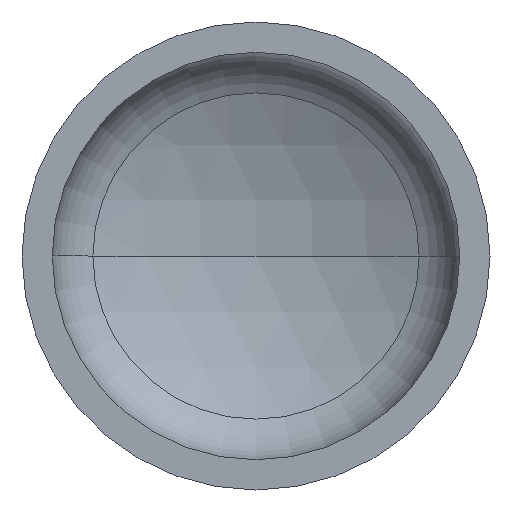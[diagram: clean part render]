
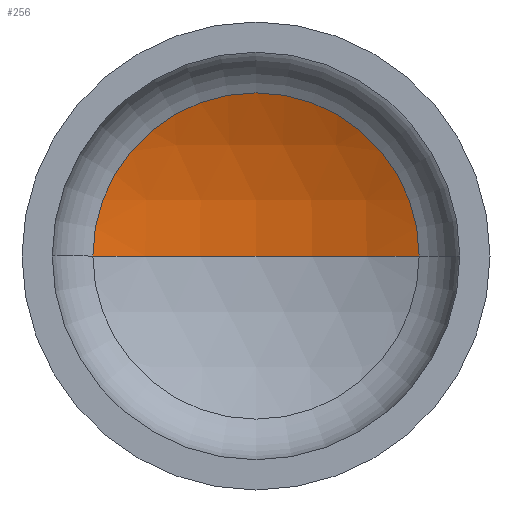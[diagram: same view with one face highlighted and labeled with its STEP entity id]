
A CAD part, front view. The second image highlights one B-rep face of the part: STEP entity #256.
In plain terms, the highlighted spherical face has radius 1040 mm.
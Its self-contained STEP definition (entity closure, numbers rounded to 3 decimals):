
#4 = AXIS2_PLACEMENT_3D ( 'NONE', #122, #299, #302 ) ;
#11 = EDGE_LOOP ( 'NONE', ( #95, #82, #42 ) ) ;
#16 = CARTESIAN_POINT ( 'NONE',  ( 0., -656.071, 0. ) ) ;
#38 = DIRECTION ( 'NONE',  ( 0., 0., -1. ) ) ;
#42 = ORIENTED_EDGE ( 'NONE', *, *, #337, .T. ) ;
#44 = CARTESIAN_POINT ( 'NONE',  ( 0., -656.071, 0. ) ) ;
#47 = AXIS2_PLACEMENT_3D ( 'NONE', #320, #323, #129 ) ;
#82 = ORIENTED_EDGE ( 'NONE', *, *, #374, .T. ) ;
#83 = VERTEX_POINT ( 'NONE', #253 ) ;
#95 = ORIENTED_EDGE ( 'NONE', *, *, #365, .F. ) ;
#110 = FACE_OUTER_BOUND ( 'NONE', #11, .T. ) ;
#112 = VERTEX_POINT ( 'NONE', #245 ) ;
#114 = CIRCLE ( 'NONE', #4, 1040. ) ;
#120 = SPHERICAL_SURFACE ( 'NONE', #125, 1040. ) ;
#122 = CARTESIAN_POINT ( 'NONE',  ( 0., -656.071, 0. ) ) ;
#125 = AXIS2_PLACEMENT_3D ( 'NONE', #44, #38, #342 ) ;
#129 = DIRECTION ( 'NONE',  ( 1., 0., 0. ) ) ;
#146 = CIRCLE ( 'NONE', #47, 453.143 ) ;
#206 = DIRECTION ( 'NONE',  ( 0., 0., -1. ) ) ;
#244 = VERTEX_POINT ( 'NONE', #248 ) ;
#245 = CARTESIAN_POINT ( 'NONE',  ( 0., 383.929, 0. ) ) ;
#248 = CARTESIAN_POINT ( 'NONE',  ( 453.143, 280.017, 0. ) ) ;
#253 = CARTESIAN_POINT ( 'NONE',  ( -453.143, 280.017, 0. ) ) ;
#256 = ADVANCED_FACE ( 'NONE', ( #110 ), #120, .F. ) ;
#257 = CIRCLE ( 'NONE', #366, 1040. ) ;
#299 = DIRECTION ( 'NONE',  ( 0., 0., 1. ) ) ;
#302 = DIRECTION ( 'NONE',  ( 1., 0., 0. ) ) ;
#320 = CARTESIAN_POINT ( 'NONE',  ( 0., 280.017, 0. ) ) ;
#323 = DIRECTION ( 'NONE',  ( 0., -1., 0. ) ) ;
#337 = EDGE_CURVE ( 'NONE', #244, #83, #146, .T. ) ;
#342 = DIRECTION ( 'NONE',  ( -1., 0., 0. ) ) ;
#365 = EDGE_CURVE ( 'NONE', #112, #83, #114, .T. ) ;
#366 = AXIS2_PLACEMENT_3D ( 'NONE', #16, #206, #370 ) ;
#370 = DIRECTION ( 'NONE',  ( -1., 0., 0. ) ) ;
#374 = EDGE_CURVE ( 'NONE', #112, #244, #257, .T. ) ;
